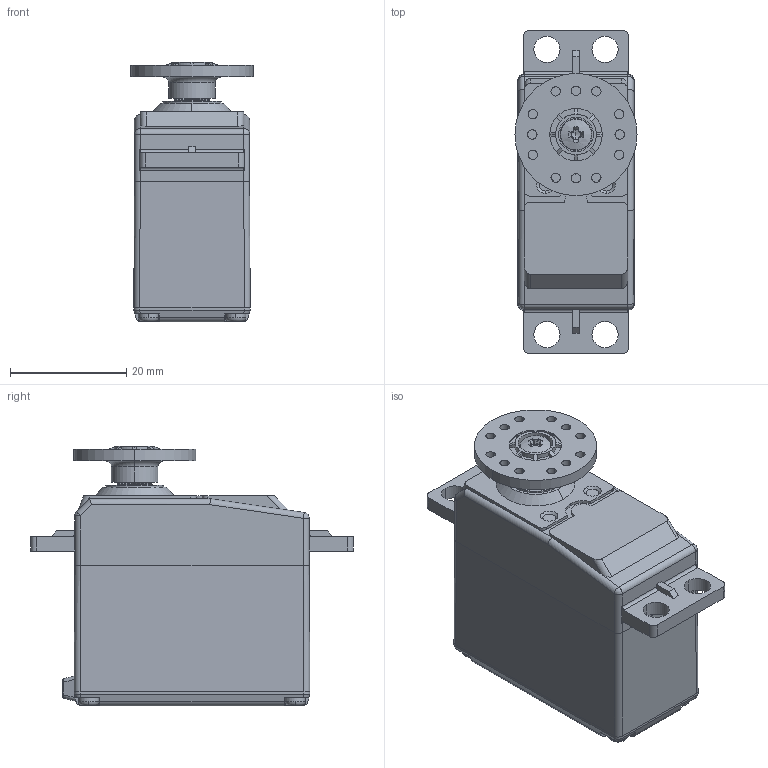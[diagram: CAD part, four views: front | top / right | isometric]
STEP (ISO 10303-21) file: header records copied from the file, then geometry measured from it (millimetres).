
FILE_DESCRIPTION (( 'STEP AP203' ), '1' );
FILE_NAME ('DRW3_S-U300_rev00.STEP', '2025-07-03T08:37:17', ( '' ), ( '' ), 'SwSTEP 2.0', 'SolidWorks 2023', '' );
FILE_SCHEMA (( 'CONFIG_CONTROL_DESIGN' ));
Length unit declared in the file: millimetre
Products named in the file (4): DRW3_S-U300_rev00; tapping screw 2.6x8; horn D; S_U300
Assembly tree (3 placements, depth 2):
  DRW3_S-U300_rev00
    horn D
    S_U300
    tapping screw 2.6x8
Bounding box: 21 x 55.5 x 44.66 mm (x, y, z)
Volume: 30030.5 mm3; surface area: 7882.2 mm2
Topology: 3 solids, 3 shells, 498 faces, 1352 edges, 876 vertices
Faces by surface type: plane 223, cylinder 211, torus 22, cone 21, bspline 17, sphere 4
Entity records: 17678 total; most frequent: CARTESIAN_POINT 4933, ORIENTED_EDGE 2692, DIRECTION 2479, EDGE_CURVE 1346, AXIS2_PLACEMENT_3D 895, VERTEX_POINT 875, LINE 689, VECTOR 689
